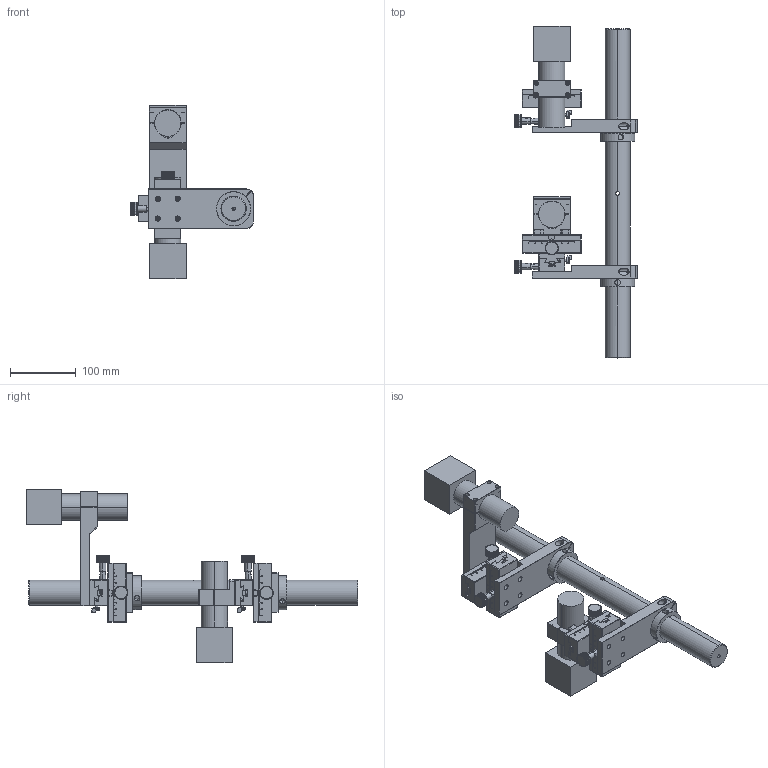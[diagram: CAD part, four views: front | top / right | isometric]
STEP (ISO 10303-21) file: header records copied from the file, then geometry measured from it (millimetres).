
FILE_DESCRIPTION (( 'STEP AP214' ), '1' );
FILE_NAME ('郋え勤袧炵苀2.0.STEP', '2026-09-01T02:04:38', ( '' ), ( '' ), 'SwSTEP 2.0', 'SolidWorks 2024', '' );
FILE_SCHEMA (( 'AUTOMOTIVE_DESIGN' ));
Length unit declared in the file: millimetre
Products named in the file (24): 芯片对准系统2.0; LWX40-L100-____-2.STEP; LWX4090; LWX4090-____-0_1.STEP; B05-21-_____1.STEP; B05-11-_____1.STEP; LWX40-L100-_____1.STEP; ________________M4__6_1.STEP; 夹持板; 夹持镜头下; LWX40-____(____)_1.STEP; LWX4090-_______1.STEP; 接杆38×500; LWX4090完好的.STEP; 镜头; LWX4090-_____1.STEP; 竖直夹持镜头1; ________M3x3.STEP; ________________M2__5__10.STEP; 止退环; 夹持镜头上; LWX4090-____-1_1.STEP
Assembly tree (61 placements, depth 4):
  芯片对准系统2.0
    接杆38×500
    LWX4090  x3
      LWX4090完好的.STEP
        LWX4090-_____1.STEP
        LWX4090-____-0_1.STEP
        LWX4090-____-1_1.STEP
        LWX40-L100-_____1.STEP
        B05-11-_____1.STEP  x2
        B05-21-_____1.STEP
        ________________M2__5__10.STEP  x2
        LWX40-L100-____-2.STEP
        ________M3x3.STEP  x8
        LWX40-____(____)_1.STEP
        LWX4090-_______1.STEP
    夹持板  x2
    LWX4090
      LWX4090完好的.STEP
        LWX4090-_____1.STEP
        LWX4090-____-0_1.STEP
        LWX4090-____-1_1.STEP
        LWX40-L100-_____1.STEP
        B05-11-_____1.STEP  x2
        B05-21-_____1.STEP
        ________________M2__5__10.STEP  x2
        LWX40-L100-____-2.STEP
        ________M3x3.STEP  x8
        ________________M4__6_1.STEP  x4
        LWX40-____(____)_1.STEP
        LWX4090-_______1.STEP
    镜头  x2
    夹持镜头上  x2
    夹持镜头下
    竖直夹持镜头1
    止退环  x2
Bounding box: 186.5 x 504.07 x 263.17 mm (x, y, z)
Volume: 1999370.6 mm3; surface area: 395019.3 mm2
Topology: 95 solids, 95 shells, 8124 faces, 20596 edges, 12796 vertices
Faces by surface type: plane 5149, cone 1247, cylinder 960, bspline 720, torus 48
Entity records: 148985 total; most frequent: CARTESIAN_POINT 98519, ORIENTED_EDGE 10686, DIRECTION 9546, EDGE_CURVE 5343, VECTOR 3758, LINE 3758, VERTEX_POINT 3325, AXIS2_PLACEMENT_3D 2894
